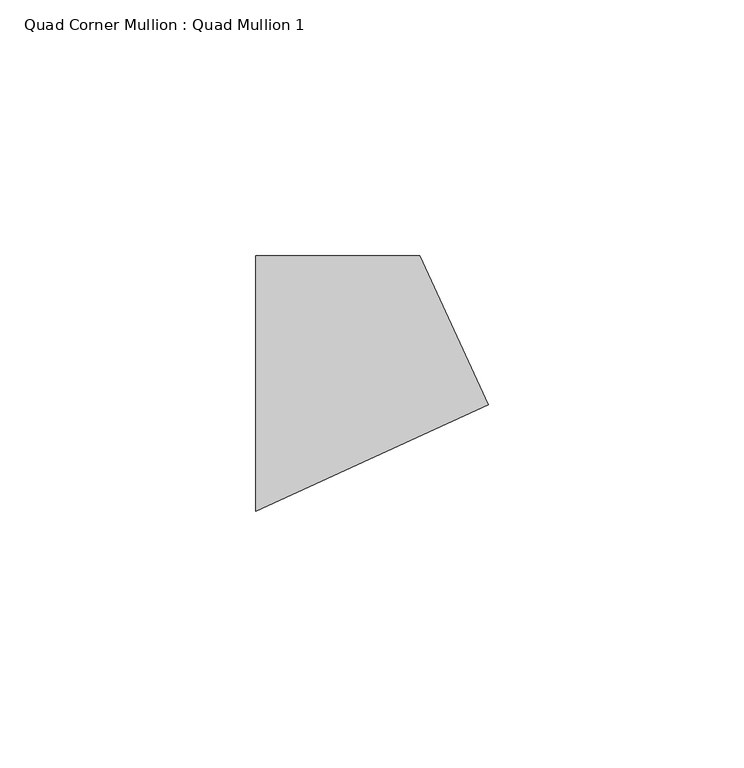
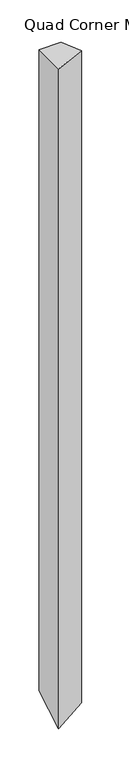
"""IFC4 building model written with IfcOpenShell, lengths in millimetres: member geometry, Quad Corner Mullion : Quad Mullion 1."""

from ifc_helpers import new_model, si_unit, origin, place, context, project, spatial, faceted_brep, source, transform, mapped, element, save


def quad_corner_mullion_quad_mullion_1_549b84a9(model_context):
    return source(origin(), model_context, "Body", "Brep", [
        faceted_brep([(29.4125559, -4.1926582, 0.0), (16.0523154, 25.0, 0.0), (-16.0523154, 25.0, 0.0), (-16.0523154, -25.0, 0.0), (29.4125559, -4.1926582, -1011.8411973), (16.0523154, 25.0, -994.9868082), (-16.0523154, 25.0, -994.9868082), (-16.0523154, -25.0, -1023.8543217)], [[[0, 1, 2, 3]], [[1, 0, 4, 5]], [[2, 1, 5, 6]], [[3, 2, 6, 7]], [[0, 3, 7, 4]], [[4, 7, 6, 5]]]),
    ])


if __name__ == "__main__":
    model = new_model("IFC4")
    model_context = context("Model", 3, world=origin())
    ifc_project = project(units=[si_unit("LENGTHUNIT", "METRE", prefix="MILLI")], contexts=[model_context])
    site = spatial("IfcSite", under=ifc_project)
    building = spatial("IfcBuilding", under=site)
    placement = place(None, origin())
    quad_corner_mullion_quad_mullion_1_shape = quad_corner_mullion_quad_mullion_1_549b84a9(model_context)
    element("IfcMember", 1, ObjectType="Quad Corner Mullion : Quad Mullion 1", at=placement, inside=building, context=model_context, shape_type="MappedRepresentation", body=[
        mapped(quad_corner_mullion_quad_mullion_1_shape, transform((0.0, 0.0, 0.0), x_axis=(1.0, 0.0, 0.0), y_axis=(0.0, 1.0, 0.0), z_axis=(0.0, 0.0, 1.0))),
    ])
    save(model, "model.ifc")
